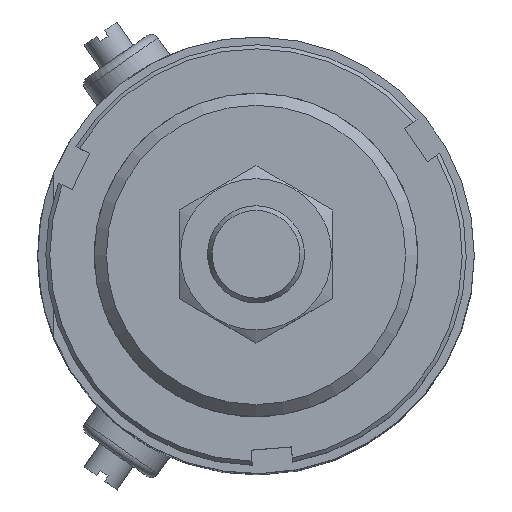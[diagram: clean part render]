
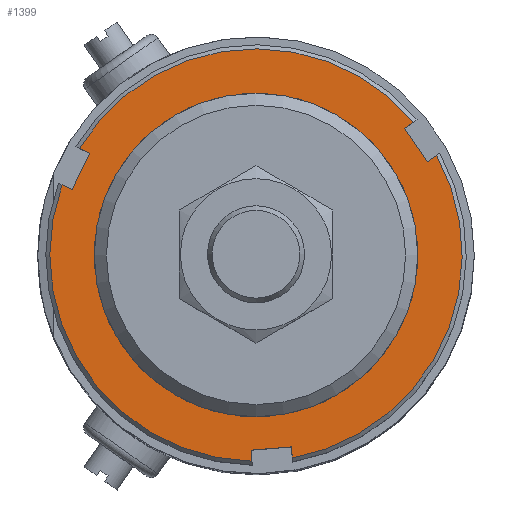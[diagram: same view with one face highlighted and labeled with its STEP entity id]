
A CAD part, top view. The second image highlights one B-rep face of the part: STEP entity #1399.
In plain terms, the highlighted planar face has unit normal (0, 0, 1).
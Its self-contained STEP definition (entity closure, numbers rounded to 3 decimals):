
#136=LINE('',#2399,#200);
#140=LINE('',#2410,#204);
#142=LINE('',#2423,#206);
#146=LINE('',#2436,#210);
#150=LINE('',#2447,#214);
#152=LINE('',#2460,#216);
#157=LINE('',#2489,#221);
#158=LINE('',#2491,#222);
#159=LINE('',#2493,#223);
#200=VECTOR('',#1917,1.377);
#204=VECTOR('',#1923,5.);
#206=VECTOR('',#1927,1.377);
#210=VECTOR('',#1933,1.377);
#214=VECTOR('',#1939,5.);
#216=VECTOR('',#1943,1.377);
#221=VECTOR('',#1972,1.377);
#222=VECTOR('',#1973,5.);
#223=VECTOR('',#1974,1.377);
#286=PLANE('',#1574);
#346=FACE_BOUND('',#564,.T.);
#347=FACE_BOUND('',#565,.T.);
#564=EDGE_LOOP('',(#1234));
#565=EDGE_LOOP('',(#1235,#1236,#1237,#1238,#1239,#1240,#1241,#1242,#1243,
#1244,#1245,#1246));
#643=CIRCLE('',#1575,20.);
#644=CIRCLE('',#1576,25.5);
#645=CIRCLE('',#1577,25.5);
#646=CIRCLE('',#1578,25.5);
#745=VERTEX_POINT('',#2396);
#746=VERTEX_POINT('',#2398);
#749=VERTEX_POINT('',#2408);
#753=VERTEX_POINT('',#2419);
#757=VERTEX_POINT('',#2433);
#758=VERTEX_POINT('',#2435);
#761=VERTEX_POINT('',#2445);
#765=VERTEX_POINT('',#2456);
#772=VERTEX_POINT('',#2484);
#773=VERTEX_POINT('',#2486);
#774=VERTEX_POINT('',#2488);
#775=VERTEX_POINT('',#2490);
#776=VERTEX_POINT('',#2492);
#898=EDGE_CURVE('',#746,#745,#136,.T.);
#903=EDGE_CURVE('',#745,#749,#140,.T.);
#907=EDGE_CURVE('',#749,#753,#142,.T.);
#912=EDGE_CURVE('',#758,#757,#146,.T.);
#917=EDGE_CURVE('',#757,#761,#150,.T.);
#921=EDGE_CURVE('',#761,#765,#152,.T.);
#933=EDGE_CURVE('',#772,#772,#643,.T.);
#934=EDGE_CURVE('',#773,#753,#644,.T.);
#935=EDGE_CURVE('',#773,#774,#157,.T.);
#936=EDGE_CURVE('',#774,#775,#158,.T.);
#937=EDGE_CURVE('',#775,#776,#159,.T.);
#938=EDGE_CURVE('',#758,#776,#645,.T.);
#939=EDGE_CURVE('',#746,#765,#646,.T.);
#1234=ORIENTED_EDGE('',*,*,#933,.T.);
#1235=ORIENTED_EDGE('',*,*,#898,.T.);
#1236=ORIENTED_EDGE('',*,*,#903,.T.);
#1237=ORIENTED_EDGE('',*,*,#907,.T.);
#1238=ORIENTED_EDGE('',*,*,#934,.F.);
#1239=ORIENTED_EDGE('',*,*,#935,.T.);
#1240=ORIENTED_EDGE('',*,*,#936,.T.);
#1241=ORIENTED_EDGE('',*,*,#937,.T.);
#1242=ORIENTED_EDGE('',*,*,#938,.F.);
#1243=ORIENTED_EDGE('',*,*,#912,.T.);
#1244=ORIENTED_EDGE('',*,*,#917,.T.);
#1245=ORIENTED_EDGE('',*,*,#921,.T.);
#1246=ORIENTED_EDGE('',*,*,#939,.F.);
#1399=ADVANCED_FACE('',(#346,#347),#286,.T.);
#1574=AXIS2_PLACEMENT_3D('',#2483,#1966,#1967);
#1575=AXIS2_PLACEMENT_3D('',#2485,#1968,#1969);
#1576=AXIS2_PLACEMENT_3D('',#2487,#1970,#1971);
#1577=AXIS2_PLACEMENT_3D('',#2494,#1975,#1976);
#1578=AXIS2_PLACEMENT_3D('',#2495,#1977,#1978);
#1917=DIRECTION('',(0.866,-0.5,0.));
#1923=DIRECTION('',(-0.5,-0.866,0.));
#1927=DIRECTION('',(-0.866,0.5,0.));
#1933=DIRECTION('',(-0.866,-0.5,0.));
#1939=DIRECTION('',(-0.5,0.866,0.));
#1943=DIRECTION('',(0.866,0.5,0.));
#1966=DIRECTION('center_axis',(0.,0.,1.));
#1967=DIRECTION('ref_axis',(1.,0.,0.));
#1968=DIRECTION('center_axis',(0.,0.,-1.));
#1969=DIRECTION('ref_axis',(-1.,0.,0.));
#1970=DIRECTION('center_axis',(0.,0.,-1.));
#1971=DIRECTION('ref_axis',(-1.,0.,0.));
#1972=DIRECTION('',(0.,1.,0.));
#1973=DIRECTION('',(1.,0.,0.));
#1974=DIRECTION('',(0.,-1.,0.));
#1975=DIRECTION('center_axis',(0.,0.,-1.));
#1976=DIRECTION('ref_axis',(-1.,0.,0.));
#1977=DIRECTION('center_axis',(0.,0.,-1.));
#1978=DIRECTION('ref_axis',(-1.,0.,0.));
#2396=CARTESIAN_POINT('',(-19.535,14.165,9.));
#2398=CARTESIAN_POINT('',(-20.727,14.854,9.));
#2399=CARTESIAN_POINT('',(-3.758,5.056,9.));
#2408=CARTESIAN_POINT('',(-22.035,9.835,9.));
#2410=CARTESIAN_POINT('',(-26.794,1.591,9.));
#2419=CARTESIAN_POINT('',(-23.227,10.524,9.));
#2423=CARTESIAN_POINT('',(-7.072,1.196,9.));
#2433=CARTESIAN_POINT('',(22.035,9.835,9.));
#2435=CARTESIAN_POINT('',(23.227,10.524,9.));
#2436=CARTESIAN_POINT('',(6.258,0.726,9.));
#2445=CARTESIAN_POINT('',(19.535,14.165,9.));
#2447=CARTESIAN_POINT('',(25.544,3.756,9.));
#2456=CARTESIAN_POINT('',(20.727,14.854,9.));
#2460=CARTESIAN_POINT('',(4.572,5.526,9.));
#2483=CARTESIAN_POINT('Origin',(0.,-24.87,
9.));
#2484=CARTESIAN_POINT('',(20.,0.,9.));
#2485=CARTESIAN_POINT('Origin',(0.,0.,9.));
#2486=CARTESIAN_POINT('',(-2.5,-25.377,9.));
#2487=CARTESIAN_POINT('Origin',(0.,0.,9.));
#2488=CARTESIAN_POINT('',(-2.5,-24.,9.));
#2489=CARTESIAN_POINT('',(-2.5,-24.435,9.));
#2490=CARTESIAN_POINT('',(2.5,-24.,9.));
#2491=CARTESIAN_POINT('',(1.25,-24.,9.));
#2492=CARTESIAN_POINT('',(2.5,-25.377,9.));
#2493=CARTESIAN_POINT('',(2.5,-25.375,9.));
#2494=CARTESIAN_POINT('Origin',(0.,0.,9.));
#2495=CARTESIAN_POINT('Origin',(0.,0.,9.));
